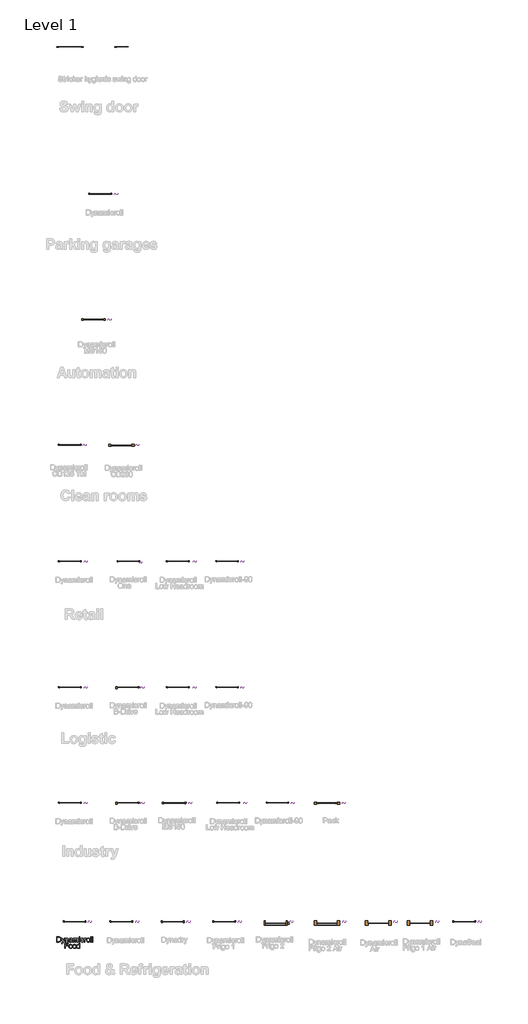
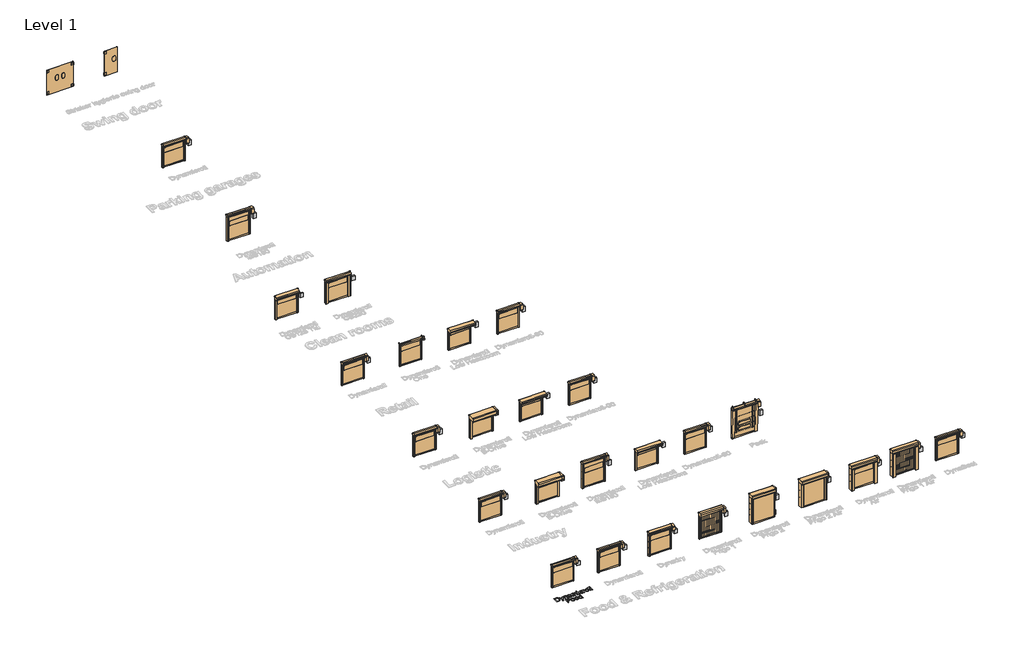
# One storey, part 1 of 20: 29 doors, 27 electric distribution boards, 1 proxy.
"""IFC4 building model written with IfcOpenShell, lengths in millimetres."""

from ifc_helpers import new_model, si_unit, origin, origin_with_axes, place, context, project, spatial, polyline, outline, extrude, transform, mapped, element, save
from components import door_081cf91a, door_ad785442, door_5d1182d7, door_15c32364, door_e8c69fe0, door_3f42d8dd, door_8e53db6a, door_15535e37, door_c90a28ff, door_75ad81ca, door_d4874c61, door_97182b1e, door_e48c7063, door_5c42f5d7, door_c5269588, cb125_tm_9ad30b0c, cb230_7affb9d1, do_wpb_pack_bmp_pack_6119c6c6, ee_wpb_control_panel_bmp_sh_control_panel_one_fab0d9c8, ee_wpb_control_panel_bmp_sh_control_panel_pvc_26d0edfe, ee_wpb_control_panel_bmp_sh_control_panel_powder_coated_2337cf2d

model = new_model("IFC4")

# Units and contexts
model_context = context("Model", 3, world=origin())
ifc_project = project(units=[si_unit("LENGTHUNIT", "METRE", prefix="MILLI")], contexts=[model_context])

# Site, building, storey
site = spatial("IfcSite", under=ifc_project)
building = spatial("IfcBuilding", under=site)
storey = spatial("IfcBuildingStorey", under=building, Name="Level 1", Elevation=0.0)

# Proxy
placement = place(None, origin())
element("IfcBuildingElementProxy", 1, Name="500mm", ObjectType="500mm", at=placement, inside=storey, context=model_context, shape_type="SweptSolid", body=[
    extrude(outline(polyline([(202.3822984, 7606.4708973), (202.3822984, 8108.7524481), (375.6547181, 8108.7524481), (427.4341089, 8106.9436949), (465.2952976, 8101.5174355), (505.3331214, 8087.5685765), (539.1169513, 8065.5876273), (557.7333131, 8047.6227232), (573.851143, 8027.3278998), (587.470441, 8004.7031571), (598.5912072, 7979.7484951), (613.3984575, 7923.7691182), (618.3342076, 7860.309474), (614.9926128, 7806.3994333), (604.9678284, 7758.9579843), (589.7007256, 7718.567607), (570.6321755, 7685.810781), (548.6818831, 7659.9517424), (524.7695535, 7640.2547272), (497.3163596, 7625.6467463), (464.7434746, 7615.0548106), (426.9895848, 7608.6168756), (383.9933766, 7606.4708973), (202.3822984, 7606.4708973)]), holes=[polyline([(265.1674922, 7669.2560912), (376.2678547, 7669.2560912), (422.2224473, 7671.5246968), (457.0792663, 7678.3305137), (483.382829, 7689.2750031), (503.6776524, 7703.9596261), (525.489989, 7731.1369085), (541.8760662, 7766.3156242), (552.1307769, 7809.6490576), (555.5490137, 7861.2904927), (553.8743842, 7897.741467), (548.8504957, 7929.7165438), (540.4773482, 7957.2157229), (528.7549417, 7980.2390044), (514.6336381, 7999.3075545), (499.063799, 8014.9425393), (482.0454247, 8027.1439588), (463.5785149, 8035.911813), (427.4647657, 8043.4533939), (374.5510721, 8045.9672542), (265.1674922, 8045.9672542), (265.1674922, 7669.2560912)])]), origin_with_axes(), (0.0, 0.0, 1.0), 5.0),
    extrude(outline(polyline([(696.8156999, 7465.2042112), (688.9675506, 7525.6594857), (720.8506569, 7520.1412558), (737.6199445, 7521.8733669), (750.6490985, 7527.0697), (760.7965102, 7535.3623734), (768.9205709, 7546.3835048), (786.0883974, 7592.6140089), (790.9934906, 7607.819798), (657.5749537, 7975.3339112), (723.7937129, 7975.3339112), (794.5496833, 7770.5462672), (819.1977769, 7688.6312096), (843.8458706, 7760.9813353), (916.5638783, 7975.3339112), (982.2921281, 7975.3339112), (853.9013118, 7597.6417295), (820.5466776, 7515.7266719), (803.4708216, 7489.5763934), (784.1263601, 7471.4582051), (761.6549015, 7460.8815978), (735.1980547, 7457.356062), (717.0185528, 7459.3180993), (696.8156999, 7465.2042112)])), origin_with_axes(), (0.0, 0.0, 1.0), 5.0),
    extrude(outline(polyline([(1034.2861168, 7606.4708973), (1034.2861168, 7975.3339112), (1097.0713106, 7975.3339112), (1097.0713106, 7923.8304318), (1118.8836473, 7949.7967693), (1145.079911, 7968.3441533), (1175.6601018, 7979.4725836), (1210.6242198, 7983.1820604), (1241.5722926, 7980.1930192), (1269.9145347, 7971.2258956), (1293.5509529, 7957.3996639), (1310.3815542, 7939.8332986), (1321.8012244, 7918.572785), (1329.2048496, 7893.6641082), (1332.5157875, 7832.963579), (1332.5157875, 7606.4708973), (1269.7305937, 7606.4708973), (1269.7305937, 7824.5022932), (1267.9218406, 7856.9678792), (1262.4955811, 7880.0524744), (1252.4861252, 7896.5918358), (1236.9277825, 7909.4217204), (1216.9855126, 7917.65308), (1193.8242754, 7920.3968666), (1174.7595574, 7918.8563607), (1157.0514043, 7914.2348431), (1140.699816, 7906.5323139), (1125.7047926, 7895.7487729), (1113.1776442, 7880.6579469), (1104.2296811, 7860.0335625), (1098.8609032, 7833.8756198), (1097.0713106, 7802.1841188), (1097.0713106, 7606.4708973), (1034.2861168, 7606.4708973)])), origin_with_axes(), (0.0, 0.0, 1.0), 5.0),
    extrude(outline(polyline([(1654.289906, 7653.5597927), (1624.292195, 7627.8387099), (1593.4054358, 7611.0081086), (1560.9245213, 7601.7190882), (1526.1443443, 7598.6227481), (1498.1891448, 7600.4851507), (1473.6751748, 7606.0723585), (1452.6024342, 7615.3843715), (1434.9709232, 7628.4211897), (1421.0488889, 7644.3550786), (1411.1045788, 7662.3583038), (1405.1379926, 7682.4308651), (1403.1491306, 7704.5727627), (1406.1535002, 7730.6004139), (1415.1666091, 7754.2368321), (1429.0694829, 7774.4703418), (1446.743147, 7790.2892676), (1467.5131514, 7802.2454324), (1490.7050455, 7810.8906593), (1545.0289534, 7820.3329639), (1609.2243616, 7830.2657777), (1653.922024, 7841.9153743), (1654.289906, 7855.8948901), (1649.9672925, 7883.9152354), (1636.9994522, 7902.2480215), (1623.924313, 7910.1881412), (1607.9980883, 7915.8596553), (1567.5923825, 7920.3968666), (1530.1910463, 7917.3771685), (1504.0714246, 7908.3180744), (1486.2598047, 7891.5641152), (1473.7824737, 7865.4598219), (1410.9972798, 7873.3079712), (1421.8957839, 7907.6436241), (1438.1592338, 7934.621637), (1461.3051427, 7955.2536856), (1492.8510238, 7970.5514452), (1531.432648, 7980.0244066), (1575.6857863, 7983.1820604), (1618.1301715, 7980.3922886), (1651.7760457, 7972.0229732), (1677.1445749, 7959.4383433), (1694.7569255, 7944.0026279), (1706.4371788, 7924.9187494), (1714.0094165, 7901.3896301), (1717.0750998, 7846.4525855), (1717.0750998, 7768.3389752), (1720.2634105, 7659.2619636), (1724.9845627, 7632.2992791), (1732.7713983, 7606.4708973), (1669.9862044, 7606.4708973), (1659.9307632, 7628.2985624), (1654.289906, 7653.5597927)]), holes=[polyline([(1654.289906, 7779.1301804), (1612.1061039, 7768.6762004), (1552.99973, 7759.8776893), (1498.9823904, 7749.6996208), (1484.9262325, 7742.7405197), (1474.5182377, 7733.144931), (1468.0803028, 7721.6486187), (1465.9343245, 7708.9873467), (1470.6094915, 7690.3173354), (1484.6349925, 7675.0195758), (1507.7042593, 7664.8108504), (1539.5107235, 7661.407942), (1573.2332397, 7665.163404), (1603.0316813, 7676.4297901), (1627.1892657, 7693.0304651), (1643.9892101, 7712.7887939), (1651.4388205, 7733.144931), (1653.922024, 7761.3492173), (1654.289906, 7779.1301804)])]), origin_with_axes(), (0.0, 0.0, 1.0), 5.0),
    extrude(outline(polyline([(1803.4047414, 7606.4708973), (1803.4047414, 7975.3339112), (1866.1899352, 7975.3339112), (1866.1899352, 7914.633382), (1885.0745443, 7942.5157715), (1909.354756, 7964.358765), (1938.2028358, 7978.4762365), (1970.7910492, 7983.1820604), (2005.7091819, 7978.384266), (2033.6988703, 7963.990883), (2054.6068304, 7940.952273), (2068.2797779, 7910.218798), (2091.1651037, 7942.1402253), (2117.2693969, 7964.9412448), (2146.5926576, 7978.6218565), (2179.1348858, 7983.1820604), (2204.2696567, 7981.2851689), (2226.3310801, 7975.5944943), (2245.319156, 7966.1100366), (2261.2338844, 7952.8317958), (2273.8146822, 7935.6064878), (2282.8009663, 7914.2808284), (2288.1927368, 7888.8548176), (2289.9899937, 7859.3284554), (2289.9899937, 7606.4708973), (2227.2047998, 7606.4708973), (2227.2047998, 7832.3504424), (2225.7486002, 7863.6663972), (2221.3800016, 7884.7736267), (2213.1946272, 7899.2283234), (2200.2881005, 7910.58668), (2183.6874255, 7917.9443199), (2164.419606, 7920.3968666), (2146.6271466, 7918.8257039), (2130.4058498, 7914.1122158), (2115.7557158, 7906.2564024), (2102.6767444, 7895.2582636), (2091.9200282, 7880.7959026), (2084.2366594, 7862.5474228), (2079.6266382, 7840.5128241), (2078.0899644, 7814.6921066), (2078.0899644, 7606.4708973), (2015.3047706, 7606.4708973), (2015.3047706, 7839.3402003), (2011.6719359, 7874.8408128), (2000.7734318, 7900.1633568), (1992.3466348, 7909.0155173), (1981.5975828, 7915.3384891), (1953.1327134, 7920.3968666), (1928.9444722, 7917.0246149), (1906.6569547, 7906.9078601), (1888.2628549, 7890.2918566), (1875.7548671, 7867.4218593), (1868.5811682, 7835.6920372), (1866.1899352, 7792.4965596), (1866.1899352, 7606.4708973), (1803.4047414, 7606.4708973)])), origin_with_axes(), (0.0, 0.0, 1.0), 5.0),
    extrude(outline(polyline([(2384.1677844, 8045.9672542), (2384.1677844, 8108.7524481), (2446.9529783, 8108.7524481), (2446.9529783, 8045.9672542), (2384.1677844, 8045.9672542)])), origin_with_axes(), (0.0, 0.0, 1.0), 5.0),
    extrude(outline(polyline([(2384.1677844, 7606.4708973), (2384.1677844, 7975.3339112), (2446.9529783, 7975.3339112), (2446.9529783, 7606.4708973), (2384.1677844, 7606.4708973)])), origin_with_axes(), (0.0, 0.0, 1.0), 5.0),
    extrude(outline(polyline([(2776.5752459, 7739.8894343), (2839.3604398, 7732.041285), (2832.5316302, 7702.4152881), (2821.8553882, 7676.1998638), (2807.3317136, 7653.3950122), (2788.9606064, 7634.0007333), (2767.5161518, 7618.5228648), (2743.7724347, 7607.4672444), (2717.7294551, 7600.8338722), (2689.3872131, 7598.6227481), (2654.1740084, 7601.7075919), (2622.6013025, 7610.9621234), (2594.6690956, 7626.3863424), (2570.3773876, 7647.9802491), (2550.7148614, 7675.3376404), (2536.6701998, 7708.0523133), (2528.2434029, 7746.1242677), (2525.4344706, 7789.5535036), (2530.2322649, 7845.4255816), (2544.625648, 7893.8480492), (2555.4781668, 7914.7981624), (2568.844546, 7932.9508396), (2584.7247855, 7948.3060808), (2603.1188852, 7960.863886), (2644.1223993, 7977.6025168), (2688.5288218, 7983.1820604), (2716.3843866, 7981.2660083), (2741.5804711, 7975.5178522), (2764.1170755, 7965.9375919), (2783.9941995, 7952.5252275), (2800.8746181, 7935.5873273), (2814.4211062, 7915.4304596), (2824.6336637, 7892.0546245), (2831.5122906, 7865.4598219), (2768.7270967, 7857.6116727), (2757.3380833, 7885.0035529), (2739.6031054, 7904.6392544), (2716.5031818, 7916.4574635), (2689.0193311, 7920.3968666), (2667.6860075, 7918.4578219), (2648.4450127, 7912.6406878), (2631.2963468, 7902.9454644), (2616.2400097, 7889.3721516), (2603.9811086, 7871.6065169), (2595.2247507, 7849.3343278), (2589.970936, 7822.5555843), (2588.2196644, 7791.2702863), (2589.9326149, 7759.5136394), (2595.0714666, 7732.4244954), (2603.6362193, 7710.0028543), (2615.626873, 7692.2487159), (2630.384306, 7678.7558773), (2647.2493962, 7669.1181354), (2666.2221437, 7663.3354903), (2687.3025484, 7661.407942), (2719.8141198, 7666.2210647), (2746.470236, 7680.660433), (2757.2499449, 7691.5819298), (2765.8606828, 7705.0939289), (2776.5752459, 7739.8894343)])), origin_with_axes(), (0.0, 0.0, 1.0), 5.0),
    extrude(outline(polyline([(2894.2974844, 7606.4708973), (2894.2974844, 7975.3339112), (2949.234529, 7975.3339112), (2949.234529, 7920.7647486), (2969.5293524, 7952.4026001), (2988.2300205, 7971.0419546), (3006.9920023, 7980.1470339), (3027.4707666, 7983.1820604), (3058.7407362, 7978.3382808), (3090.5012152, 7963.806942), (3069.5319414, 7907.5209967), (3047.4590217, 7917.1778991), (3025.386102, 7920.3968666), (3006.6394487, 7917.3005264), (2989.8854895, 7908.0115061), (2976.3504977, 7893.2349126), (2967.2607468, 7873.6758532), (2959.6271954, 7838.6044363), (2957.0826782, 7800.3447088), (2957.0826782, 7606.4708973), (2894.2974844, 7606.4708973)])), origin_with_axes(), (0.0, 0.0, 1.0), 5.0),
    extrude(outline(polyline([(3114.0456628, 7790.9024043), (3117.4409071, 7838.6734142), (3127.6266398, 7879.8378766), (3144.6028611, 7914.3957915), (3168.3695708, 7942.3471589), (3192.2972289, 7960.2124283), (3218.7080905, 7972.973335), (3247.6021555, 7980.6298791), (3278.979424, 7983.1820604), (3313.6178131, 7980.074224), (3344.9376001, 7970.7507146), (3372.9387848, 7955.2115325), (3397.6213675, 7933.4566774), (3417.7667388, 7906.2219134), (3432.1562898, 7874.2430046), (3440.7900203, 7837.5199508), (3443.6679305, 7796.0527522), (3438.5788963, 7732.6237649), (3432.2176034, 7706.5884495), (3423.3117935, 7684.339253), (3411.9725974, 7665.1212508), (3398.3111462, 7648.1795185), (3382.3274399, 7633.5140561), (3364.0214786, 7621.1248635), (3323.293876, 7604.248277), (3278.979424, 7598.6227481), (3243.8351972, 7601.7190882), (3212.2241703, 7611.0081086), (3184.1463434, 7626.4898092), (3159.6017166, 7648.1641901), (3139.6709431, 7675.6633693), (3125.4346763, 7708.6194647), (3116.8929162, 7747.0324763), (3114.0456628, 7790.9024043)]), holes=[polyline([(3176.8308567, 7791.0250316), (3178.647274, 7760.5713002), (3184.0965261, 7734.2025918), (3193.1786129, 7711.9189063), (3205.8935343, 7693.7202439), (3221.3599065, 7679.5836118), (3238.6963455, 7669.4860174), (3257.9028514, 7663.4274608), (3278.979424, 7661.407942), (3299.9486977, 7663.4389571), (3319.0785615, 7669.5320027), (3336.3690153, 7679.6870786), (3351.8200591, 7693.9041849), (3364.5349805, 7712.2829562), (3373.6170673, 7734.9230273), (3379.0663193, 7761.8243982), (3380.8827367, 7792.9870689), (3379.054823, 7822.4751101), (3373.571082, 7848.1540398), (3364.4315137, 7870.0238579), (3351.6361181, 7888.0845646), (3336.1275927, 7902.2211967), (3318.8486352, 7912.3187911), (3299.7992457, 7918.3773477), (3278.979424, 7920.3968666), (3257.9028514, 7918.3850119), (3238.6963455, 7912.3494479), (3221.3599065, 7902.2901746), (3205.8935343, 7888.207192), (3193.1786129, 7870.062179), (3184.0965261, 7847.8168146), (3178.647274, 7821.4710988), (3176.8308567, 7791.0250316)])]), origin_with_axes(), (0.0, 0.0, 1.0), 5.0),
    extrude(outline(polyline([(3514.3012736, 7606.4708973), (3514.3012736, 8108.7524481), (3577.0864674, 8108.7524481), (3577.0864674, 7606.4708973), (3514.3012736, 7606.4708973)])), origin_with_axes(), (0.0, 0.0, 1.0), 5.0),
    extrude(outline(polyline([(3671.2642582, 7606.4708973), (3671.2642582, 8108.7524481), (3734.0494521, 8108.7524481), (3734.0494521, 7606.4708973), (3671.2642582, 7606.4708973)])), origin_with_axes(), (0.0, 0.0, 1.0), 5.0),
    extrude(outline(polyline([(987.1972214, 6996.5968081), (987.1972214, 7498.8783589), (1324.6676383, 7498.8783589), (1324.6676383, 7436.093165), (1049.9824152, 7436.093165), (1049.9824152, 7286.9783296), (1285.4268922, 7286.9783296), (1285.4268922, 7224.1931358), (1049.9824152, 7224.1931358), (1049.9824152, 6996.5968081), (987.1972214, 6996.5968081)])), origin_with_axes(), (0.0, 0.0, 1.0), 5.0),
    extrude(outline(polyline([(1387.4528322, 7181.028315), (1390.8480764, 7228.7993249), (1401.0338091, 7269.9637874), (1418.0100304, 7304.5217023), (1441.7767401, 7332.4730697), (1465.7043982, 7350.3383391), (1492.1152598, 7363.0992458), (1521.0093248, 7370.7557898), (1552.3865933, 7373.3079712), (1587.0249824, 7370.2001347), (1618.3447694, 7360.8766254), (1646.3459542, 7345.3374432), (1671.0285368, 7323.5825882), (1691.1739081, 7296.3478242), (1705.5634591, 7264.3689154), (1714.1971896, 7227.6458616), (1717.0750998, 7186.178663), (1711.9860656, 7122.7496756), (1705.6247727, 7096.7143603), (1696.7189628, 7074.4651638), (1685.3797667, 7055.2471616), (1671.7183155, 7038.3054293), (1655.7346092, 7023.6399669), (1637.4286479, 7011.2507743), (1596.7010453, 6994.3741877), (1552.3865933, 6988.7486589), (1517.2423665, 6991.844999), (1485.6313396, 7001.1340194), (1457.5535128, 7016.61572), (1433.0088859, 7038.2901009), (1413.0781124, 7065.78928), (1398.8418456, 7098.7453754), (1390.3000855, 7137.1583871), (1387.4528322, 7181.028315)]), holes=[polyline([(1450.238026, 7181.1509424), (1452.0544433, 7150.6972109), (1457.5036954, 7124.3285025), (1466.5857822, 7102.0448171), (1479.3007036, 7083.8461546), (1494.7670758, 7069.7095226), (1512.1035148, 7059.6119282), (1531.3100207, 7053.5533716), (1552.3865933, 7051.5338527), (1573.355867, 7053.5648679), (1592.4857308, 7059.6579135), (1609.7761846, 7069.8129894), (1625.2272284, 7084.0300956), (1637.9421498, 7102.408867), (1647.0242366, 7125.0489381), (1652.4734886, 7151.950309), (1654.289906, 7183.1129797), (1652.4619923, 7212.6010208), (1646.9782513, 7238.2799505), (1637.838683, 7260.1497687), (1625.0432874, 7278.2104754), (1609.534762, 7292.3471075), (1592.2558045, 7302.4447019), (1573.206415, 7308.5032585), (1552.3865933, 7310.5227773), (1531.3100207, 7308.5109227), (1512.1035148, 7302.4753587), (1494.7670758, 7292.4160854), (1479.3007036, 7278.3331028), (1466.5857822, 7260.1880898), (1457.5036954, 7237.9427254), (1452.0544433, 7211.5970096), (1450.238026, 7181.1509424)])]), origin_with_axes(), (0.0, 0.0, 1.0), 5.0),
    extrude(outline(polyline([(1772.0121444, 7181.028315), (1775.4073887, 7228.7993249), (1785.5931214, 7269.9637874), (1802.5693427, 7304.5217023), (1826.3360524, 7332.4730697), (1850.2637105, 7350.3383391), (1876.6745721, 7363.0992458), (1905.5686371, 7370.7557898), (1936.9459056, 7373.3079712), (1971.5842947, 7370.2001347), (2002.9040817, 7360.8766254), (2030.9052664, 7345.3374432), (2055.5878491, 7323.5825882), (2075.7332204, 7296.3478242), (2090.1227714, 7264.3689154), (2098.7565019, 7227.6458616), (2101.6344121, 7186.178663), (2096.5453779, 7122.7496756), (2090.184085, 7096.7143603), (2081.2782751, 7074.4651638), (2069.939079, 7055.2471616), (2056.2776278, 7038.3054293), (2040.2939215, 7023.6399669), (2021.9879602, 7011.2507743), (1981.2603576, 6994.3741877), (1936.9459056, 6988.7486589), (1901.8016788, 6991.844999), (1870.1906519, 7001.1340194), (1842.112825, 7016.61572), (1817.5681982, 7038.2901009), (1797.6374247, 7065.78928), (1783.4011579, 7098.7453754), (1774.8593978, 7137.1583871), (1772.0121444, 7181.028315)]), holes=[polyline([(1834.7973383, 7181.1509424), (1836.6137556, 7150.6972109), (1842.0630077, 7124.3285025), (1851.1450944, 7102.0448171), (1863.8600159, 7083.8461546), (1879.3263881, 7069.7095226), (1896.6628271, 7059.6119282), (1915.869333, 7053.5533716), (1936.9459056, 7051.5338527), (1957.9151793, 7053.5648679), (1977.0450431, 7059.6579135), (1994.3354969, 7069.8129894), (2009.7865407, 7084.0300956), (2022.5014621, 7102.408867), (2031.5835489, 7125.0489381), (2037.0328009, 7151.950309), (2038.8492183, 7183.1129797), (2037.0213046, 7212.6010208), (2031.5375636, 7238.2799505), (2022.3979953, 7260.1497687), (2009.6025997, 7278.2104754), (1994.0940743, 7292.3471075), (1976.8151168, 7302.4447019), (1957.7657273, 7308.5032585), (1936.9459056, 7310.5227773), (1915.869333, 7308.5109227), (1896.6628271, 7302.4753587), (1879.3263881, 7292.4160854), (1863.8600159, 7278.3331028), (1851.1450944, 7260.1880898), (1842.0630077, 7237.9427254), (1836.6137556, 7211.5970096), (1834.7973383, 7181.1509424)])]), origin_with_axes(), (0.0, 0.0, 1.0), 5.0),
    extrude(outline(polyline([(2399.8640829, 6996.5968081), (2399.8640829, 7055.8258093), (2381.0791085, 7026.479556), (2358.3240743, 7005.5179465), (2331.5989801, 6992.9409808), (2300.9038262, 6988.7486589), (2260.3141794, 6994.8187118), (2223.1580979, 7013.0288706), (2191.7041873, 7042.1068766), (2168.2210532, 7080.7804713), (2153.5977439, 7127.4861563), (2148.7233075, 7180.660433), (2153.2145335, 7233.1755878), (2166.6882116, 7280.6017084), (2176.7896381, 7301.7319305), (2189.1290133, 7320.2409934), (2203.7063374, 7336.128897), (2220.5216102, 7349.3956415), (2258.4900978, 7367.3298888), (2300.6585715, 7373.3079712), (2331.3767181, 7369.031343), (2358.5386721, 7356.2014584), (2381.5619536, 7336.5351001), (2399.8640829, 7311.7490507), (2399.8640829, 7498.8783589), (2462.6492767, 7498.8783589), (2462.6492767, 6996.5968081), (2399.8640829, 6996.5968081)]), holes=[polyline([(2211.5085013, 7180.9056877), (2213.2789334, 7150.4596205), (2218.5902298, 7124.1139047), (2227.4423903, 7101.8685403), (2239.835415, 7083.7235273), (2254.6350011, 7069.6405447), (2270.7068457, 7059.5812714), (2288.050949, 7053.5457074), (2306.6673108, 7051.5338527), (2325.371811, 7053.4537369), (2342.6124474, 7059.2133894), (2358.38922, 7068.8128102), (2372.7021289, 7082.2519993), (2384.5854838, 7099.6382557), (2393.0735944, 7121.0788782), (2398.1664608, 7146.5738669), (2399.8640829, 7176.1232218), (2398.1358039, 7208.51983), (2392.9509671, 7236.3025848), (2384.3095723, 7259.4714863), (2372.2116196, 7278.0265344), (2357.5844782, 7292.2436407), (2341.3555172, 7302.3987166), (2323.5247368, 7308.4917622), (2304.0921368, 7310.5227773), (2285.107893, 7308.5722363), (2267.7637898, 7302.7206134), (2252.0598271, 7292.9679084), (2237.996005, 7279.3141214), (2226.4077222, 7261.4603483), (2218.1303773, 7239.107685), (2213.1639703, 7212.2561315), (2211.5085013, 7180.9056877)])]), origin_with_axes(), (0.0, 0.0, 1.0), 5.0),
])

# Doors
door_shape = door_081cf91a(model_context)
element("IfcDoor", 2, ObjectType="DO_WPB_Stricker hygienic swing door_BMP : Strick hygienic swing door", at=placement, inside=storey, context=model_context, shape_type="MappedRepresentation", body=[
    mapped(door_shape, transform((1497.2684086, 94620.7315843, 0.0), x_axis=(1.0, 0.0, 0.0), y_axis=(0.0, 1.0, 0.0), z_axis=(0.0, 0.0, 1.0))),
])
door_2_shape = door_ad785442(model_context)
element("IfcDoor", 3, ObjectType="DO_WPB_Stricker hygienic swing door_BMP : Strick hygienic swing door", at=placement, inside=storey, context=model_context, shape_type="MappedRepresentation", body=[
    mapped(door_2_shape, transform((6497.2684086, 94620.7315843, 0.0), x_axis=(1.0, 0.0, 0.0), y_axis=(0.0, 1.0, 0.0), z_axis=(0.0, 0.0, 1.0))),
])
door_3_shape = door_5d1182d7(model_context)
element("IfcDoor", 4, ObjectType="DO_WPB_Dynamicroll_BMP : Dynamicroll B-Drive", at=placement, inside=storey, context=model_context, shape_type="MappedRepresentation", body=[
    mapped(door_3_shape, transform((7088.8652486, 32462.1380074, 0.0), x_axis=(1.0, 0.0, 0.0), y_axis=(0.0, 1.0, 0.0), z_axis=(0.0, 0.0, 1.0))),
])
element("IfcDoor", 5, ObjectType="DO_WPB_Dynamicroll_BMP : Dynamicroll B-Drive", at=placement, inside=storey, context=model_context, shape_type="MappedRepresentation", body=[
    mapped(door_3_shape, transform((7088.8652486, 21224.4832479, 0.0), x_axis=(1.0, 0.0, 0.0), y_axis=(0.0, 1.0, 0.0), z_axis=(0.0, 0.0, 1.0))),
])
door_4_shape = door_15c32364(model_context)
element("IfcDoor", 6, ObjectType="DO_WPB_Dynamicroll_BMP : Dynamicroll One", at=placement, inside=storey, context=model_context, shape_type="MappedRepresentation", body=[
    mapped(door_4_shape, transform((7181.7584674, 44698.8509751, 0.0), x_axis=(1.0, 0.0, 0.0), y_axis=(0.0, 1.0, 0.0), z_axis=(0.0, 0.0, 1.0))),
])
door_5_shape = door_e8c69fe0(model_context)
element("IfcDoor", 7, ObjectType="DO_WPB_Dynamicroll_BMP : Dynamicroll", at=placement, inside=storey, context=model_context, shape_type="MappedRepresentation", body=[
    mapped(door_5_shape, transform((6497.2684086, 9654.9840976, 0.0), x_axis=(1.0, 0.0, 0.0), y_axis=(0.0, 1.0, 0.0), z_axis=(0.0, 0.0, 1.0))),
])
element("IfcDoor", 8, ObjectType="DO_WPB_Dynamicroll_BMP : Dynamicroll", at=placement, inside=storey, context=model_context, shape_type="MappedRepresentation", body=[
    mapped(door_5_shape, transform((1488.8652486, 32462.1380074, 0.0), x_axis=(1.0, 0.0, 0.0), y_axis=(0.0, 1.0, 0.0), z_axis=(0.0, 0.0, 1.0))),
])
element("IfcDoor", 9, ObjectType="DO_WPB_Dynamicroll_BMP : Dynamicroll", at=placement, inside=storey, context=model_context, shape_type="MappedRepresentation", body=[
    mapped(door_5_shape, transform((1488.8652486, 21224.4832479, 0.0), x_axis=(1.0, 0.0, 0.0), y_axis=(0.0, 1.0, 0.0), z_axis=(0.0, 0.0, 1.0))),
])
element("IfcDoor", 10, ObjectType="DO_WPB_Dynamicroll_BMP : Dynamicroll", at=placement, inside=storey, context=model_context, shape_type="MappedRepresentation", body=[
    mapped(door_5_shape, transform((1488.8652486, 44698.8509751, 0.0), x_axis=(1.0, 0.0, 0.0), y_axis=(0.0, 1.0, 0.0), z_axis=(0.0, 0.0, 1.0))),
])
element("IfcDoor", 11, ObjectType="DO_WPB_Dynamicroll_BMP : Dynamicroll", at=placement, inside=storey, context=model_context, shape_type="MappedRepresentation", body=[
    mapped(door_5_shape, transform((4445.6536388, 80429.8524972, 0.0), x_axis=(1.0, 0.0, 0.0), y_axis=(0.0, 1.0, 0.0), z_axis=(0.0, 0.0, 1.0))),
])
door_6_shape = door_3f42d8dd(model_context)
element("IfcDoor", 12, ObjectType="DO_WPB_Dynamicroll_BMP : Dynamicroll-90", at=placement, inside=storey, context=model_context, shape_type="MappedRepresentation", body=[
    mapped(door_6_shape, transform((16781.7584674, 32462.1380074, 0.0), x_axis=(1.0, 0.0, 0.0), y_axis=(0.0, 1.0, 0.0), z_axis=(0.0, 0.0, 1.0))),
])
element("IfcDoor", 13, ObjectType="DO_WPB_Dynamicroll_BMP : Dynamicroll-90", at=placement, inside=storey, context=model_context, shape_type="MappedRepresentation", body=[
    mapped(door_6_shape, transform((21681.7584674, 21224.4832479, 0.0), x_axis=(1.0, 0.0, 0.0), y_axis=(0.0, 1.0, 0.0), z_axis=(0.0, 0.0, 1.0))),
])
element("IfcDoor", 14, ObjectType="DO_WPB_Dynamicroll_BMP : Dynamicroll-90", at=placement, inside=storey, context=model_context, shape_type="MappedRepresentation", body=[
    mapped(door_6_shape, transform((16781.7584674, 44698.8509751, 0.0), x_axis=(1.0, 0.0, 0.0), y_axis=(0.0, 1.0, 0.0), z_axis=(0.0, 0.0, 1.0))),
])
door_7_shape = door_8e53db6a(model_context)
element("IfcDoor", 15, ObjectType="DO_WPB_Dynamicroll_BMP : Dynamicroll MS150", at=placement, inside=storey, context=model_context, shape_type="MappedRepresentation", body=[
    mapped(door_7_shape, transform((11635.9345844, 21224.4832479, 0.0), x_axis=(1.0, 0.0, 0.0), y_axis=(0.0, 1.0, 0.0), z_axis=(0.0, 0.0, 1.0))),
])
element("IfcDoor", 16, ObjectType="DO_WPB_Dynamicroll_BMP : Dynamicroll MS150", at=placement, inside=storey, context=model_context, shape_type="MappedRepresentation", body=[
    mapped(door_7_shape, transform((3788.8652486, 68233.2125546, 0.0), x_axis=(1.0, 0.0, 0.0), y_axis=(0.0, 1.0, 0.0), z_axis=(0.0, 0.0, 1.0))),
])
door_8_shape = door_15535e37(model_context)
element("IfcDoor", 17, ObjectType="DO_WPB_Dynamicroll_BMP : Dynamicroll Food Inox", at=placement, inside=storey, context=model_context, shape_type="MappedRepresentation", body=[
    mapped(door_8_shape, transform((1948.7786866, 9654.9840976, 0.0), x_axis=(1.0, 0.0, 0.0), y_axis=(0.0, 1.0, 0.0), z_axis=(0.0, 0.0, 1.0))),
])
door_9_shape = door_c90a28ff(model_context)
element("IfcDoor", 18, ObjectType="DO_WPB_Dynamicroll_BMP : Dynamicroll Low Headroom", at=placement, inside=storey, context=model_context, shape_type="MappedRepresentation", body=[
    mapped(door_9_shape, transform((11988.8652486, 32462.1380074, 0.0), x_axis=(1.0, 0.0, 0.0), y_axis=(0.0, 1.0, 0.0), z_axis=(0.0, 0.0, 1.0))),
])
element("IfcDoor", 19, ObjectType="DO_WPB_Dynamicroll_BMP : Dynamicroll Low Headroom", at=placement, inside=storey, context=model_context, shape_type="MappedRepresentation", body=[
    mapped(door_9_shape, transform((16888.8652486, 21224.4832479, 0.0), x_axis=(1.0, 0.0, 0.0), y_axis=(0.0, 1.0, 0.0), z_axis=(0.0, 0.0, 1.0))),
])
element("IfcDoor", 20, ObjectType="DO_WPB_Dynamicroll_BMP : Dynamicroll Low Headroom", at=placement, inside=storey, context=model_context, shape_type="MappedRepresentation", body=[
    mapped(door_9_shape, transform((11988.8652486, 44698.8509751, 0.0), x_axis=(1.0, 0.0, 0.0), y_axis=(0.0, 1.0, 0.0), z_axis=(0.0, 0.0, 1.0))),
])
door_10_shape = door_75ad81ca(model_context)
element("IfcDoor", 21, ObjectType="DO_WPB_Dynadry_BMP : Dynadry", at=placement, inside=storey, context=model_context, shape_type="MappedRepresentation", body=[
    mapped(door_10_shape, transform((11497.2684086, 9654.9840976, 0.0), x_axis=(1.0, 0.0, 0.0), y_axis=(0.0, 1.0, 0.0), z_axis=(0.0, 0.0, 1.0))),
])
door_11_shape = door_d4874c61(model_context)
element("IfcDoor", 22, ObjectType="DO_WPB_Dynamicroll Frigo_Air_BMP : Dynamicroll Frigo1", at=placement, inside=storey, context=model_context, shape_type="MappedRepresentation", body=[
    mapped(door_11_shape, transform((16497.2684086, 9654.9840976, 0.0), x_axis=(1.0, 0.0, 0.0), y_axis=(0.0, 1.0, 0.0), z_axis=(0.0, 0.0, 1.0))),
])
door_12_shape = door_97182b1e(model_context)
element("IfcDoor", 23, ObjectType="DO_WPB_Dynamicroll Frigo_Air_BMP : Dynamicroll Frigo2", at=placement, inside=storey, context=model_context, shape_type="MappedRepresentation", body=[
    mapped(door_12_shape, transform((21497.2684086, 9654.9840976, 0.0), x_axis=(1.0, 0.0, 0.0), y_axis=(0.0, 1.0, 0.0), z_axis=(0.0, 0.0, 1.0))),
])
door_13_shape = door_e48c7063(model_context)
element("IfcDoor", 24, ObjectType="DO_WPB_Dynamicroll Frigo_Air_BMP : Dynamicroll Frigo2 Air", at=placement, inside=storey, context=model_context, shape_type="MappedRepresentation", body=[
    mapped(door_13_shape, transform((26497.2684086, 9654.9840976, 0.0), x_axis=(1.0, 0.0, 0.0), y_axis=(0.0, 1.0, 0.0), z_axis=(0.0, 0.0, 1.0))),
])
door_14_shape = door_5c42f5d7(model_context)
element("IfcDoor", 25, ObjectType="DO_WPB_Dynamicroll Frigo_Air_BMP : Dynamicroll Air", at=placement, inside=storey, context=model_context, shape_type="MappedRepresentation", body=[
    mapped(door_14_shape, transform((31497.2684086, 9654.9840976, 0.0), x_axis=(1.0, 0.0, 0.0), y_axis=(0.0, 1.0, 0.0), z_axis=(0.0, 0.0, 1.0))),
])
door_15_shape = door_c5269588(model_context)
element("IfcDoor", 26, ObjectType="DO_WPB_Dynamicroll Frigo_Air_BMP : Dynamicroll Frigo1 Air", at=placement, inside=storey, context=model_context, shape_type="MappedRepresentation", body=[
    mapped(door_15_shape, transform((35540.4620886, 9654.9840976, 0.0), x_axis=(1.0, 0.0, 0.0), y_axis=(0.0, 1.0, 0.0), z_axis=(0.0, 0.0, 1.0))),
])
element("IfcDoor", 27, ObjectType="DO_WPB_DynaSeal_BMP : DynaSeal", at=placement, inside=storey, context=model_context, shape_type="MappedRepresentation", body=[
    mapped(door_5_shape, transform((39840.4620886, 9654.9840976, 0.0), x_axis=(1.0, 0.0, 0.0), y_axis=(0.0, 1.0, 0.0), z_axis=(0.0, 0.0, 1.0))),
])
cb125_tm_shape = cb125_tm_9ad30b0c(model_context)
element("IfcDoor", 28, ObjectType="DO_WPB_Dynamicroll Cleanroom_BMP : CB125 TM", at=placement, inside=storey, context=model_context, shape_type="MappedRepresentation", body=[
    mapped(cb125_tm_shape, transform((1488.8652486, 56020.8553836, 0.0), x_axis=(1.0, 0.0, 0.0), y_axis=(0.0, 1.0, 0.0), z_axis=(0.0, 0.0, 1.0))),
])
cb230_shape = cb230_7affb9d1(model_context)
element("IfcDoor", 29, ObjectType="DO_WPB_Dynamicroll Cleanroom_BMP : CB230", at=placement, inside=storey, context=model_context, shape_type="MappedRepresentation", body=[
    mapped(cb230_shape, transform((6497.2684086, 56020.8553836, 0.0), x_axis=(1.0, 0.0, 0.0), y_axis=(0.0, 1.0, 0.0), z_axis=(0.0, 0.0, 1.0))),
])
do_wpb_pack_bmp_pack_shape = do_wpb_pack_bmp_pack_6119c6c6(model_context)
element("IfcDoor", 30, ObjectType="DO_WPB_Pack_BMP : Pack", at=placement, inside=storey, context=model_context, shape_type="MappedRepresentation", body=[
    mapped(do_wpb_pack_bmp_pack_shape, transform((26497.2684086, 21224.4832479, 0.0), x_axis=(1.0, 0.0, 0.0), y_axis=(0.0, 1.0, 0.0), z_axis=(0.0, 0.0, 1.0))),
])

# Electric distribution boards
ee_wpb_control_panel_bmp_sh_control_panel_one_shape = ee_wpb_control_panel_bmp_sh_control_panel_one_fab0d9c8(model_context)
element("IfcElectricDistributionBoard", 31, ObjectType="EE_WPB_control panel_BMP_SH : Control panel One", at=placement, inside=storey, context=model_context, shape_type="MappedRepresentation", body=[
    mapped(ee_wpb_control_panel_bmp_sh_control_panel_one_shape, transform((8381.7584674, 44573.8509751, 2050.0), x_axis=(1.0, 0.0, 0.0), y_axis=(0.0, 1.0, 0.0), z_axis=(0.0, 0.0, 1.0))),
])
ee_wpb_control_panel_bmp_sh_control_panel_pvc_shape = ee_wpb_control_panel_bmp_sh_control_panel_pvc_26d0edfe(model_context)
element("IfcElectricDistributionBoard", 32, ObjectType="EE_WPB_control panel_BMP_SH : Control panel PVC", at=placement, inside=storey, context=model_context, shape_type="MappedRepresentation", body=[
    mapped(ee_wpb_control_panel_bmp_sh_control_panel_pvc_shape, transform((8027.2684086, 56020.8553836, 1500.0), x_axis=(1.0, 0.0, 0.0), y_axis=(0.0, 1.0, 0.0), z_axis=(0.0, 0.0, 1.0))),
])
element("IfcElectricDistributionBoard", 33, ObjectType="EE_WPB_control panel_BMP_SH : Control panel PVC", at=placement, inside=storey, context=model_context, shape_type="MappedRepresentation", body=[
    mapped(ee_wpb_control_panel_bmp_sh_control_panel_pvc_shape, transform((13022.2684086, 9654.9840976, 1500.0), x_axis=(1.0, 0.0, 0.0), y_axis=(0.0, 1.0, 0.0), z_axis=(0.0, 0.0, 1.0))),
])
element("IfcElectricDistributionBoard", 34, ObjectType="EE_WPB_control panel_BMP_SH : Control panel PVC", at=placement, inside=storey, context=model_context, shape_type="MappedRepresentation", body=[
    mapped(ee_wpb_control_panel_bmp_sh_control_panel_pvc_shape, transform((3438.7786866, 9654.9840976, 1500.0), x_axis=(1.0, 0.0, 0.0), y_axis=(0.0, 1.0, 0.0), z_axis=(0.0, 0.0, 1.0))),
])
element("IfcElectricDistributionBoard", 35, ObjectType="EE_WPB_control panel_BMP_SH : Control panel PVC", at=placement, inside=storey, context=model_context, shape_type="MappedRepresentation", body=[
    mapped(ee_wpb_control_panel_bmp_sh_control_panel_pvc_shape, transform((2913.8652486, 56020.8553836, 1500.0), x_axis=(1.0, 0.0, 0.0), y_axis=(0.0, 1.0, 0.0), z_axis=(0.0, 0.0, 1.0))),
])
ee_wpb_control_panel_bmp_sh_control_panel_powder_coated_shape = ee_wpb_control_panel_bmp_sh_control_panel_powder_coated_2337cf2d(model_context)
element("IfcElectricDistributionBoard", 36, ObjectType="EE_WPB_control panel_BMP_SH : Control panel Powder coated steel", at=placement, inside=storey, context=model_context, shape_type="MappedRepresentation", body=[
    mapped(ee_wpb_control_panel_bmp_sh_control_panel_powder_coated_shape, transform((18022.2684086, 9654.9840976, 1500.0), x_axis=(1.0, 0.0, 0.0), y_axis=(0.0, 1.0, 0.0), z_axis=(0.0, 0.0, 1.0))),
])
element("IfcElectricDistributionBoard", 37, ObjectType="EE_WPB_control panel_BMP_SH : Control panel Powder coated steel", at=placement, inside=storey, context=model_context, shape_type="MappedRepresentation", body=[
    mapped(ee_wpb_control_panel_bmp_sh_control_panel_powder_coated_shape, transform((23022.2684086, 9654.9840976, 1500.0), x_axis=(1.0, 0.0, 0.0), y_axis=(0.0, 1.0, 0.0), z_axis=(0.0, 0.0, 1.0))),
])
element("IfcElectricDistributionBoard", 38, ObjectType="EE_WPB_control panel_BMP_SH : Control panel Powder coated steel", at=placement, inside=storey, context=model_context, shape_type="MappedRepresentation", body=[
    mapped(ee_wpb_control_panel_bmp_sh_control_panel_powder_coated_shape, transform((28157.2684086, 9654.9840976, 1500.0), x_axis=(1.0, 0.0, 0.0), y_axis=(0.0, 1.0, 0.0), z_axis=(0.0, 0.0, 1.0))),
])
element("IfcElectricDistributionBoard", 39, ObjectType="EE_WPB_control panel_BMP_SH : Control panel Powder coated steel", at=placement, inside=storey, context=model_context, shape_type="MappedRepresentation", body=[
    mapped(ee_wpb_control_panel_bmp_sh_control_panel_powder_coated_shape, transform((33157.2684086, 9654.9840976, 1500.0), x_axis=(1.0, 0.0, 0.0), y_axis=(0.0, 1.0, 0.0), z_axis=(0.0, 0.0, 1.0))),
])
element("IfcElectricDistributionBoard", 40, ObjectType="EE_WPB_control panel_BMP_SH : Control panel Powder coated steel", at=placement, inside=storey, context=model_context, shape_type="MappedRepresentation", body=[
    mapped(ee_wpb_control_panel_bmp_sh_control_panel_powder_coated_shape, transform((8022.2684086, 9654.9840976, 1500.0), x_axis=(1.0, 0.0, 0.0), y_axis=(0.0, 1.0, 0.0), z_axis=(0.0, 0.0, 1.0))),
])
element("IfcElectricDistributionBoard", 41, ObjectType="EE_WPB_control panel_BMP_SH : Control panel Powder coated steel", at=placement, inside=storey, context=model_context, shape_type="MappedRepresentation", body=[
    mapped(ee_wpb_control_panel_bmp_sh_control_panel_powder_coated_shape, transform((3013.8652486, 32462.1380074, 1500.0), x_axis=(1.0, 0.0, 0.0), y_axis=(0.0, 1.0, 0.0), z_axis=(0.0, 0.0, 1.0))),
])
element("IfcElectricDistributionBoard", 42, ObjectType="EE_WPB_control panel_BMP_SH : Control panel Powder coated steel", at=placement, inside=storey, context=model_context, shape_type="MappedRepresentation", body=[
    mapped(ee_wpb_control_panel_bmp_sh_control_panel_powder_coated_shape, transform((8548.8652486, 32462.1380074, 1500.0), x_axis=(1.0, 0.0, 0.0), y_axis=(0.0, 1.0, 0.0), z_axis=(0.0, 0.0, 1.0))),
])
element("IfcElectricDistributionBoard", 43, ObjectType="EE_WPB_control panel_BMP_SH : Control panel Powder coated steel", at=placement, inside=storey, context=model_context, shape_type="MappedRepresentation", body=[
    mapped(ee_wpb_control_panel_bmp_sh_control_panel_powder_coated_shape, transform((13633.8652486, 32462.1380074, 1500.0), x_axis=(1.0, 0.0, 0.0), y_axis=(0.0, 1.0, 0.0), z_axis=(0.0, 0.0, 1.0))),
])
element("IfcElectricDistributionBoard", 44, ObjectType="EE_WPB_control panel_BMP_SH : Control panel Powder coated steel", at=placement, inside=storey, context=model_context, shape_type="MappedRepresentation", body=[
    mapped(ee_wpb_control_panel_bmp_sh_control_panel_powder_coated_shape, transform((18271.7584674, 32462.1380074, 1500.0), x_axis=(1.0, 0.0, 0.0), y_axis=(0.0, 1.0, 0.0), z_axis=(0.0, 0.0, 1.0))),
])
element("IfcElectricDistributionBoard", 45, ObjectType="EE_WPB_control panel_BMP_SH : Control panel Powder coated steel", at=placement, inside=storey, context=model_context, shape_type="MappedRepresentation", body=[
    mapped(ee_wpb_control_panel_bmp_sh_control_panel_powder_coated_shape, transform((3013.8652486, 21224.4832479, 1500.0), x_axis=(1.0, 0.0, 0.0), y_axis=(0.0, 1.0, 0.0), z_axis=(0.0, 0.0, 1.0))),
])
element("IfcElectricDistributionBoard", 46, ObjectType="EE_WPB_control panel_BMP_SH : Control panel Powder coated steel", at=placement, inside=storey, context=model_context, shape_type="MappedRepresentation", body=[
    mapped(ee_wpb_control_panel_bmp_sh_control_panel_powder_coated_shape, transform((8548.8652486, 21224.4832479, 1500.0), x_axis=(1.0, 0.0, 0.0), y_axis=(0.0, 1.0, 0.0), z_axis=(0.0, 0.0, 1.0))),
])
element("IfcElectricDistributionBoard", 47, ObjectType="EE_WPB_control panel_BMP_SH : Control panel Powder coated steel", at=placement, inside=storey, context=model_context, shape_type="MappedRepresentation", body=[
    mapped(ee_wpb_control_panel_bmp_sh_control_panel_powder_coated_shape, transform((18533.8652486, 21224.4832479, 1500.0), x_axis=(1.0, 0.0, 0.0), y_axis=(0.0, 1.0, 0.0), z_axis=(0.0, 0.0, 1.0))),
])
element("IfcElectricDistributionBoard", 48, ObjectType="EE_WPB_control panel_BMP_SH : Control panel Powder coated steel", at=placement, inside=storey, context=model_context, shape_type="MappedRepresentation", body=[
    mapped(ee_wpb_control_panel_bmp_sh_control_panel_powder_coated_shape, transform((23171.7584674, 21224.4832479, 1500.0), x_axis=(1.0, 0.0, 0.0), y_axis=(0.0, 1.0, 0.0), z_axis=(0.0, 0.0, 1.0))),
])
element("IfcElectricDistributionBoard", 49, ObjectType="EE_WPB_control panel_BMP_SH : Control panel Powder coated steel", at=placement, inside=storey, context=model_context, shape_type="MappedRepresentation", body=[
    mapped(ee_wpb_control_panel_bmp_sh_control_panel_powder_coated_shape, transform((13185.9345844, 21224.4832479, 1500.0), x_axis=(1.0, 0.0, 0.0), y_axis=(0.0, 1.0, 0.0), z_axis=(0.0, 0.0, 1.0))),
])
element("IfcElectricDistributionBoard", 50, ObjectType="EE_WPB_control panel_BMP_SH : Control panel Powder coated steel", at=placement, inside=storey, context=model_context, shape_type="MappedRepresentation", body=[
    mapped(ee_wpb_control_panel_bmp_sh_control_panel_powder_coated_shape, transform((3013.8652486, 44698.8509751, 1500.0), x_axis=(1.0, 0.0, 0.0), y_axis=(0.0, 1.0, 0.0), z_axis=(0.0, 0.0, 1.0))),
])
element("IfcElectricDistributionBoard", 51, ObjectType="EE_WPB_control panel_BMP_SH : Control panel Powder coated steel", at=placement, inside=storey, context=model_context, shape_type="MappedRepresentation", body=[
    mapped(ee_wpb_control_panel_bmp_sh_control_panel_powder_coated_shape, transform((13633.8652486, 44698.8509751, 1500.0), x_axis=(1.0, 0.0, 0.0), y_axis=(0.0, 1.0, 0.0), z_axis=(0.0, 0.0, 1.0))),
])
element("IfcElectricDistributionBoard", 52, ObjectType="EE_WPB_control panel_BMP_SH : Control panel Powder coated steel", at=placement, inside=storey, context=model_context, shape_type="MappedRepresentation", body=[
    mapped(ee_wpb_control_panel_bmp_sh_control_panel_powder_coated_shape, transform((18271.7584674, 44698.8509751, 1500.0), x_axis=(1.0, 0.0, 0.0), y_axis=(0.0, 1.0, 0.0), z_axis=(0.0, 0.0, 1.0))),
])
element("IfcElectricDistributionBoard", 53, ObjectType="EE_WPB_control panel_BMP_SH : Control panel Powder coated steel", at=placement, inside=storey, context=model_context, shape_type="MappedRepresentation", body=[
    mapped(ee_wpb_control_panel_bmp_sh_control_panel_powder_coated_shape, transform((5338.8652486, 68233.2125546, 1500.0), x_axis=(1.0, 0.0, 0.0), y_axis=(0.0, 1.0, 0.0), z_axis=(0.0, 0.0, 1.0))),
])
element("IfcElectricDistributionBoard", 54, ObjectType="EE_WPB_control panel_BMP_SH : Control panel Powder coated steel", at=placement, inside=storey, context=model_context, shape_type="MappedRepresentation", body=[
    mapped(ee_wpb_control_panel_bmp_sh_control_panel_powder_coated_shape, transform((5970.6536388, 80429.8524972, 1500.0), x_axis=(1.0, 0.0, 0.0), y_axis=(0.0, 1.0, 0.0), z_axis=(0.0, 0.0, 1.0))),
])
element("IfcElectricDistributionBoard", 55, ObjectType="EE_WPB_control panel_BMP_SH : Control panel Powder coated steel", at=placement, inside=storey, context=model_context, shape_type="MappedRepresentation", body=[
    mapped(ee_wpb_control_panel_bmp_sh_control_panel_powder_coated_shape, transform((28132.2684086, 21224.4832479, 1500.0), x_axis=(1.0, 0.0, 0.0), y_axis=(0.0, 1.0, 0.0), z_axis=(0.0, 0.0, 1.0))),
])
element("IfcElectricDistributionBoard", 56, ObjectType="EE_WPB_control panel_BMP_SH : Control panel Powder coated steel", at=placement, inside=storey, context=model_context, shape_type="MappedRepresentation", body=[
    mapped(ee_wpb_control_panel_bmp_sh_control_panel_powder_coated_shape, transform((37200.4620886, 9654.9840976, 1500.0), x_axis=(1.0, 0.0, 0.0), y_axis=(0.0, 1.0, 0.0), z_axis=(0.0, 0.0, 1.0))),
])
element("IfcElectricDistributionBoard", 57, ObjectType="EE_WPB_control panel_BMP_SH : Control panel Powder coated steel", at=placement, inside=storey, context=model_context, shape_type="MappedRepresentation", body=[
    mapped(ee_wpb_control_panel_bmp_sh_control_panel_powder_coated_shape, transform((41365.4620886, 9654.9840976, 1500.0), x_axis=(1.0, 0.0, 0.0), y_axis=(0.0, 1.0, 0.0), z_axis=(0.0, 0.0, 1.0))),
])

save(model, "model.ifc")
